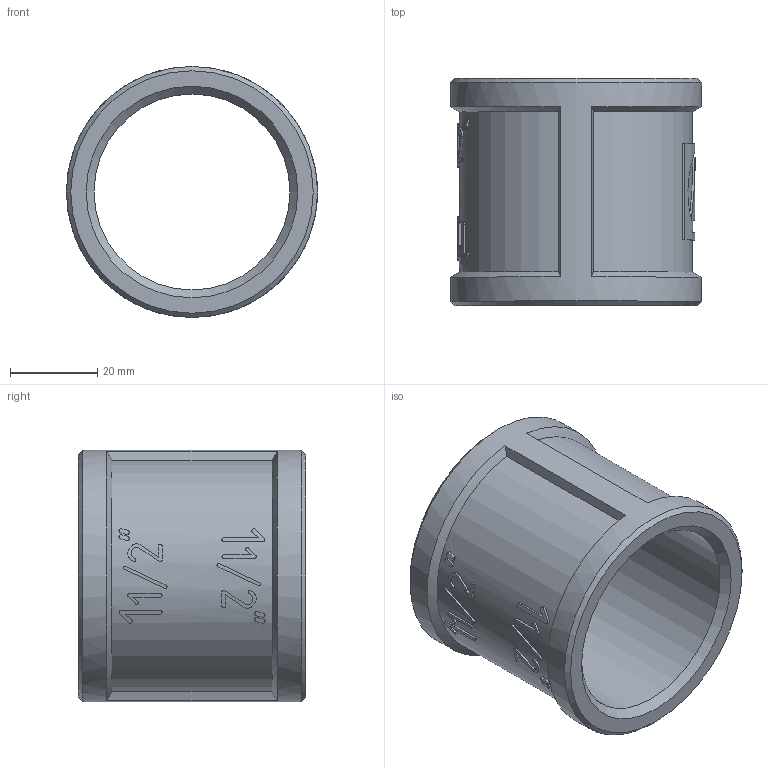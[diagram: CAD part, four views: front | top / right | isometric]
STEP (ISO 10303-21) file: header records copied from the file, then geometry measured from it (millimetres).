
FILE_DESCRIPTION(('STEP AP203'), '1');
FILE_NAME('ﾂﾐ.713461.005 - VTr.270.N.0008 ﾌ G1 1-2', '2024-06-27T12:56:28', ('Boss'), (''), 'C3D Converter', 'C3D Toolkit', '');
FILE_SCHEMA(('CONFIG_CONTROL_DESIGN'));
Length unit declared in the file: millimetre
Products named in the file (1): ВР.713461.005
Bounding box: 57.5 x 52 x 57.5 mm (x, y, z)
Volume: 40374.2 mm3; surface area: 18609.9 mm2
Topology: 1 solids, 1 shells, 240 faces, 662 edges, 440 vertices
Faces by surface type: extrusion 138, plane 74, cylinder 20, cone 8
Full cylindrical faces by diameter (mm): 44.846 x1, 57.5 x1
Entity records: 11694 total; most frequent: CARTESIAN_POINT 6354, ORIENTED_EDGE 1310, DIRECTION 663, EDGE_CURVE 655, VERTEX_POINT 440, B_SPLINE_CURVE_WITH_KNOTS 424, VECTOR 381, EDGE_LOOP 265
